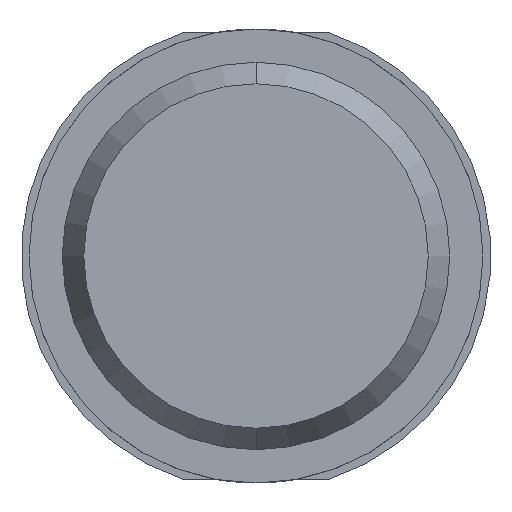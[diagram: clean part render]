
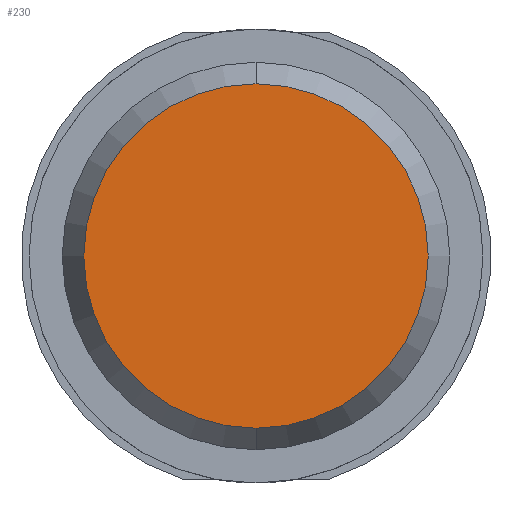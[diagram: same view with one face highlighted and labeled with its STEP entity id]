
A CAD part, front view. The second image highlights one B-rep face of the part: STEP entity #230.
In plain terms, the highlighted planar face has unit normal (0, -1, 0).
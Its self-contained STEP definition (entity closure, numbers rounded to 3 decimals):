
#7 = ORIENTED_EDGE ( 'NONE', *, *, #550, .T. ) ;
#36 = CIRCLE ( 'NONE', #527, 4.4 ) ;
#79 = ORIENTED_EDGE ( 'NONE', *, *, #505, .T. ) ;
#93 = CIRCLE ( 'NONE', #477, 4.4 ) ;
#105 = FACE_OUTER_BOUND ( 'NONE', #175, .T. ) ;
#175 = EDGE_LOOP ( 'NONE', ( #7, #79 ) ) ;
#230 = ADVANCED_FACE ( 'NONE', ( #105 ), #448, .F. ) ;
#263 = DIRECTION ( 'NONE',  ( 0., 1., 0. ) ) ;
#291 = VERTEX_POINT ( 'NONE', #435 ) ;
#306 = CARTESIAN_POINT ( 'NONE',  ( 0., -10., -4.4 ) ) ;
#337 = DIRECTION ( 'NONE',  ( 0., -1., 0. ) ) ;
#344 = VERTEX_POINT ( 'NONE', #306 ) ;
#368 = DIRECTION ( 'NONE',  ( 0., -1., 0. ) ) ;
#369 = CARTESIAN_POINT ( 'NONE',  ( -4.4, -10., 0. ) ) ;
#371 = DIRECTION ( 'NONE',  ( 0., 0., 1. ) ) ;
#384 = DIRECTION ( 'NONE',  ( 0., 0., -1. ) ) ;
#435 = CARTESIAN_POINT ( 'NONE',  ( 0., -10., 4.4 ) ) ;
#446 = CARTESIAN_POINT ( 'NONE',  ( 0., -10., 0. ) ) ;
#448 = PLANE ( 'NONE',  #482 ) ;
#454 = CARTESIAN_POINT ( 'NONE',  ( 0., -10., 0. ) ) ;
#466 = DIRECTION ( 'NONE',  ( 0., 0., 1. ) ) ;
#477 = AXIS2_PLACEMENT_3D ( 'NONE', #454, #368, #371 ) ;
#482 = AXIS2_PLACEMENT_3D ( 'NONE', #369, #263, #384 ) ;
#505 = EDGE_CURVE ( 'NONE', #344, #291, #93, .T. ) ;
#527 = AXIS2_PLACEMENT_3D ( 'NONE', #446, #337, #466 ) ;
#550 = EDGE_CURVE ( 'NONE', #291, #344, #36, .T. ) ;
